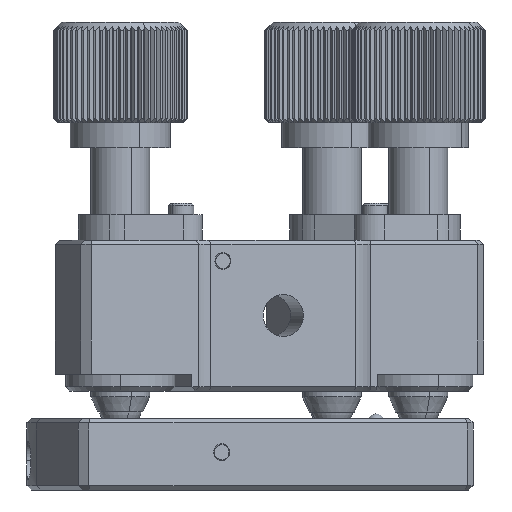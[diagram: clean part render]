
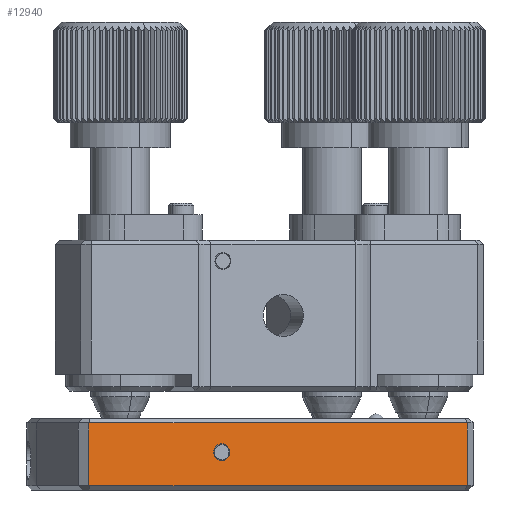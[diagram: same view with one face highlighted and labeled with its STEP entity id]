
A CAD part, left-side view. The second image highlights one B-rep face of the part: STEP entity #12940.
In plain terms, the highlighted planar face has unit normal (-0.96, -0.279, 0).
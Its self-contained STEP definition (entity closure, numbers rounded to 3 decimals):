
#421 = CARTESIAN_POINT ( 'NONE',  ( -29.652, -1.577, -0.705 ) ) ;
#1966 = CARTESIAN_POINT ( 'NONE',  ( -29.652, -1.577, 0.295 ) ) ;
#1992 = CARTESIAN_POINT ( 'NONE',  ( -29.652, -1.577, 1.295 ) ) ;
#2189 = VERTEX_POINT ( 'NONE', #1992 ) ;
#2192 = FACE_BOUND ( 'NONE', #7891, .T. ) ;
#2204 = DIRECTION ( 'NONE',  ( -0.96, -0.279, 0. ) ) ;
#2206 = CARTESIAN_POINT ( 'NONE',  ( -34.253, 14.268, 3.795 ) ) ;
#3599 = CARTESIAN_POINT ( 'NONE',  ( -34.253, 14.268, 4.295 ) ) ;
#4660 = EDGE_CURVE ( 'NONE', #25271, #2189, #33690, .T. ) ;
#6237 = DIRECTION ( 'NONE',  ( 0., 0., -1. ) ) ;
#7161 = VERTEX_POINT ( 'NONE', #29250 ) ;
#7213 = CARTESIAN_POINT ( 'NONE',  ( -21.147, -30.867, 4.295 ) ) ;
#7305 = EDGE_CURVE ( 'NONE', #15331, #19637, #23501, .T. ) ;
#7891 = EDGE_LOOP ( 'NONE', ( #15838, #8333 ) ) ;
#8333 = ORIENTED_EDGE ( 'NONE', *, *, #4660, .F. ) ;
#8379 = EDGE_CURVE ( 'NONE', #7161, #19637, #12735, .T. ) ;
#8523 = ORIENTED_EDGE ( 'NONE', *, *, #7305, .T. ) ;
#8529 = CARTESIAN_POINT ( 'NONE',  ( -21.147, -30.867, 4.295 ) ) ;
#9174 = ORIENTED_EDGE ( 'NONE', *, *, #8379, .F. ) ;
#9580 = CARTESIAN_POINT ( 'NONE',  ( -34.253, 14.268, 3.795 ) ) ;
#11475 = DIRECTION ( 'NONE',  ( 0.279, -0.96, 0. ) ) ;
#11679 = LINE ( 'NONE', #3599, #30196 ) ;
#12735 = LINE ( 'NONE', #7213, #25946 ) ;
#12940 = ADVANCED_FACE ( 'NONE', ( #2192, #16149 ), #24817, .F. ) ;
#14142 = CARTESIAN_POINT ( 'NONE',  ( -21.147, -30.867, -3.705 ) ) ;
#15331 = VERTEX_POINT ( 'NONE', #22668 ) ;
#15428 = CARTESIAN_POINT ( 'NONE',  ( -29.652, -1.577, 0.295 ) ) ;
#15823 = AXIS2_PLACEMENT_3D ( 'NONE', #1966, #2204, #33279 ) ;
#15838 = ORIENTED_EDGE ( 'NONE', *, *, #28383, .F. ) ;
#15888 = LINE ( 'NONE', #9580, #21231 ) ;
#16149 = FACE_OUTER_BOUND ( 'NONE', #22126, .T. ) ;
#16434 = VECTOR ( 'NONE', #11475, 1000. ) ;
#18093 = DIRECTION ( 'NONE',  ( 0., 0., 1. ) ) ;
#18258 = ORIENTED_EDGE ( 'NONE', *, *, #30669, .T. ) ;
#19294 = DIRECTION ( 'NONE',  ( 0.96, 0.279, 0. ) ) ;
#19322 = VERTEX_POINT ( 'NONE', #2206 ) ;
#19637 = VERTEX_POINT ( 'NONE', #29922 ) ;
#21106 = EDGE_CURVE ( 'NONE', #19322, #15331, #11679, .T. ) ;
#21162 = CIRCLE ( 'NONE', #27636, 1. ) ;
#21231 = VECTOR ( 'NONE', #30688, 1000. ) ;
#22126 = EDGE_LOOP ( 'NONE', ( #30018, #8523, #9174, #18258 ) ) ;
#22668 = CARTESIAN_POINT ( 'NONE',  ( -34.253, 14.268, -3.705 ) ) ;
#23501 = LINE ( 'NONE', #14142, #16434 ) ;
#24703 = DIRECTION ( 'NONE',  ( 0., 0., -1. ) ) ;
#24817 = PLANE ( 'NONE',  #25756 ) ;
#25271 = VERTEX_POINT ( 'NONE', #421 ) ;
#25679 = DIRECTION ( 'NONE',  ( 0., 0., -1. ) ) ;
#25756 = AXIS2_PLACEMENT_3D ( 'NONE', #8529, #19294, #6237 ) ;
#25946 = VECTOR ( 'NONE', #25679, 1000. ) ;
#27636 = AXIS2_PLACEMENT_3D ( 'NONE', #15428, #33870, #18093 ) ;
#28383 = EDGE_CURVE ( 'NONE', #2189, #25271, #21162, .T. ) ;
#29250 = CARTESIAN_POINT ( 'NONE',  ( -21.147, -30.867, 3.795 ) ) ;
#29922 = CARTESIAN_POINT ( 'NONE',  ( -21.147, -30.867, -3.705 ) ) ;
#30018 = ORIENTED_EDGE ( 'NONE', *, *, #21106, .T. ) ;
#30196 = VECTOR ( 'NONE', #24703, 1000. ) ;
#30669 = EDGE_CURVE ( 'NONE', #7161, #19322, #15888, .T. ) ;
#30688 = DIRECTION ( 'NONE',  ( -0.279, 0.96, 0. ) ) ;
#33279 = DIRECTION ( 'NONE',  ( 0., 0., 1. ) ) ;
#33690 = CIRCLE ( 'NONE', #15823, 1. ) ;
#33870 = DIRECTION ( 'NONE',  ( -0.96, -0.279, 0. ) ) ;
